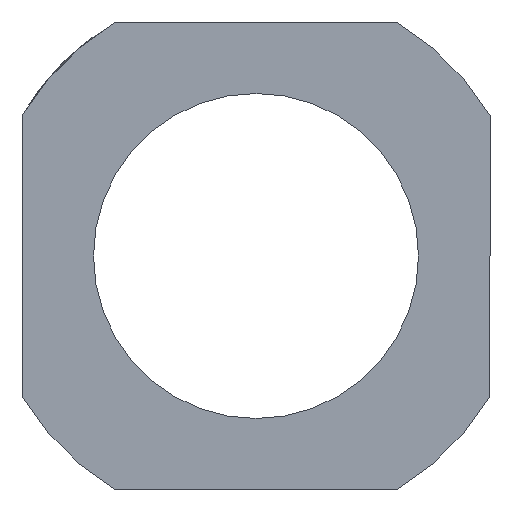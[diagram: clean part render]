
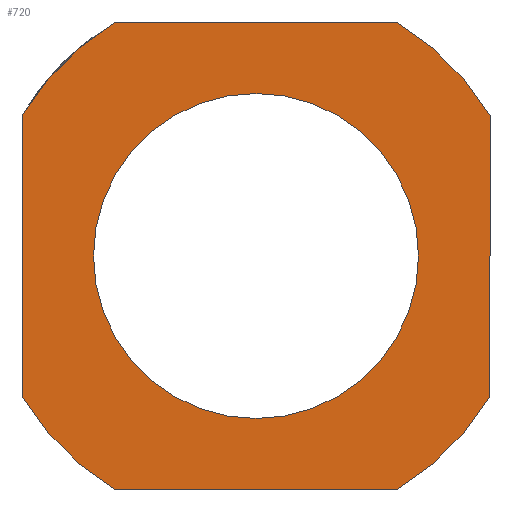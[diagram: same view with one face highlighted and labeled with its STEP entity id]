
A CAD part, left-side view. The second image highlights one B-rep face of the part: STEP entity #720.
In plain terms, the highlighted planar face has unit normal (-1, 0, 0).
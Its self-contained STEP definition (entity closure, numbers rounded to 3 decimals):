
#415=CARTESIAN_POINT('',(0.0,-12.5,0.0));
#416=VERTEX_POINT('',#415);
#417=CARTESIAN_POINT('',(0.0,0.0,0.0));
#418=DIRECTION('',(1.0,0.0,0.0));
#419=DIRECTION('',(0.0,-1.0,0.0));
#420=AXIS2_PLACEMENT_3D('',#417,#418,#419);
#421=CIRCLE('',#420,12.5);
#422=EDGE_CURVE('',#416,#416,#421,.T.);
#442=CARTESIAN_POINT('',(0.0,10.817,18.0));
#443=VERTEX_POINT('',#442);
#450=CARTESIAN_POINT('',(0.0,-10.817,18.));
#451=VERTEX_POINT('',#450);
#452=CARTESIAN_POINT('',(0.0,-10.817,18.));
#453=DIRECTION('',(0.0,1.0,0.0));
#454=VECTOR('',#453,21.633);
#455=LINE('',#452,#454);
#456=EDGE_CURVE('',#451,#443,#455,.T.);
#482=CARTESIAN_POINT('',(0.0,-10.817,-18.0));
#483=VERTEX_POINT('',#482);
#490=CARTESIAN_POINT('',(0.0,10.817,-18.));
#491=VERTEX_POINT('',#490);
#492=CARTESIAN_POINT('',(0.0,10.817,-18.));
#493=DIRECTION('',(0.0,-1.0,0.0));
#494=VECTOR('',#493,21.633);
#495=LINE('',#492,#494);
#496=EDGE_CURVE('',#491,#483,#495,.T.);
#522=CARTESIAN_POINT('',(0.0,-18.,10.817));
#523=VERTEX_POINT('',#522);
#530=CARTESIAN_POINT('',(0.0,-18.0,-10.817));
#531=VERTEX_POINT('',#530);
#532=CARTESIAN_POINT('',(0.0,-18.0,-10.817));
#533=DIRECTION('',(0.0,0.0,1.0));
#534=VECTOR('',#533,21.633);
#535=LINE('',#532,#534);
#536=EDGE_CURVE('',#531,#523,#535,.T.);
#562=CARTESIAN_POINT('',(0.0,18.,-10.817));
#563=VERTEX_POINT('',#562);
#570=CARTESIAN_POINT('',(0.0,18.0,10.817));
#571=VERTEX_POINT('',#570);
#572=CARTESIAN_POINT('',(0.0,18.0,10.817));
#573=DIRECTION('',(0.0,0.0,-1.0));
#574=VECTOR('',#573,21.633);
#575=LINE('',#572,#574);
#576=EDGE_CURVE('',#571,#563,#575,.T.);
#593=CARTESIAN_POINT('',(0.0,0.0,0.0));
#594=DIRECTION('',(1.0,0.0,0.0));
#595=DIRECTION('',(0.0,1.0,0.0));
#596=AXIS2_PLACEMENT_3D('',#593,#594,#595);
#597=CIRCLE('',#596,21.0);
#598=EDGE_CURVE('',#491,#563,#597,.T.);
#625=CARTESIAN_POINT('',(0.0,0.0,0.0));
#626=DIRECTION('',(1.0,0.0,0.0));
#627=DIRECTION('',(0.0,1.0,0.0));
#628=AXIS2_PLACEMENT_3D('',#625,#626,#627);
#629=CIRCLE('',#628,21.0);
#630=EDGE_CURVE('',#531,#483,#629,.T.);
#649=CARTESIAN_POINT('',(0.0,0.0,0.0));
#650=DIRECTION('',(1.0,0.0,0.0));
#651=DIRECTION('',(0.0,1.0,0.0));
#652=AXIS2_PLACEMENT_3D('',#649,#650,#651);
#653=CIRCLE('',#652,21.0);
#654=EDGE_CURVE('',#571,#443,#653,.T.);
#696=CARTESIAN_POINT('',(0.0,10.5,0.0));
#697=DIRECTION('',(-1.0,0.0,0.0));
#698=DIRECTION('',(0.0,0.0,1.0));
#699=AXIS2_PLACEMENT_3D('',#696,#697,#698);
#700=PLANE('',#699);
#701=ORIENTED_EDGE('',*,*,#456,.T.);
#702=ORIENTED_EDGE('',*,*,#654,.F.);
#703=ORIENTED_EDGE('',*,*,#576,.T.);
#704=ORIENTED_EDGE('',*,*,#598,.F.);
#705=ORIENTED_EDGE('',*,*,#496,.T.);
#706=ORIENTED_EDGE('',*,*,#630,.F.);
#707=ORIENTED_EDGE('',*,*,#536,.T.);
#708=CARTESIAN_POINT('',(0.0,0.0,0.0));
#709=DIRECTION('',(1.0,0.0,0.0));
#710=DIRECTION('',(0.0,1.0,0.0));
#711=AXIS2_PLACEMENT_3D('',#708,#709,#710);
#712=CIRCLE('',#711,21.0);
#713=EDGE_CURVE('',#451,#523,#712,.T.);
#714=ORIENTED_EDGE('',*,*,#713,.F.);
#715=EDGE_LOOP('',(#701,#702,#703,#704,#705,#706,#707,#714));
#716=FACE_OUTER_BOUND('',#715,.T.);
#717=ORIENTED_EDGE('',*,*,#422,.T.);
#718=EDGE_LOOP('',(#717));
#719=FACE_BOUND('',#718,.T.);
#720=ADVANCED_FACE('',(#716,#719),#700,.T.);
